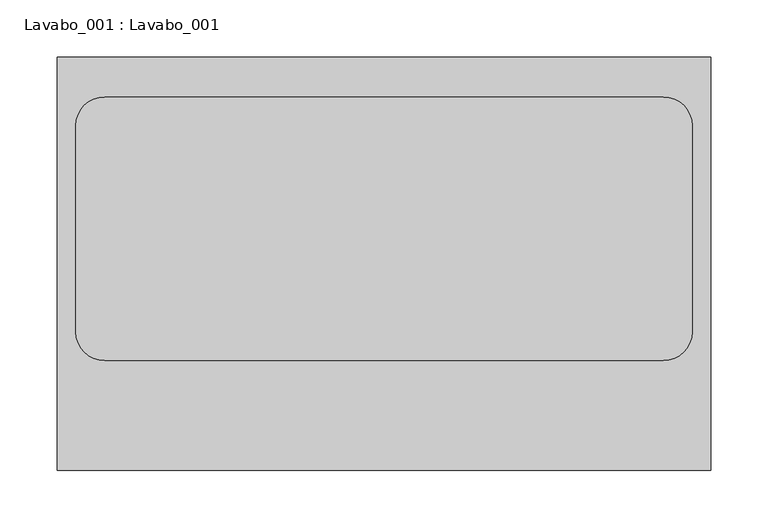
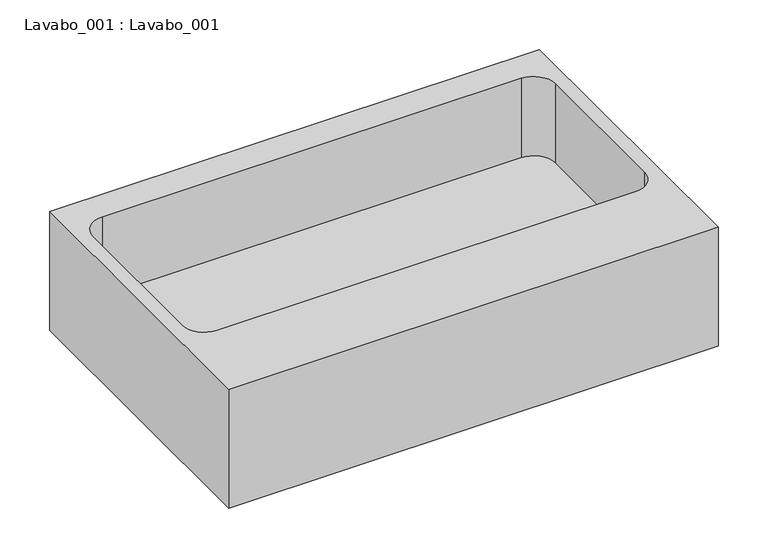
"""IFC4 building model written with IfcOpenShell, lengths in millimetres: flow terminal geometry, Lavabo_001 : Lavabo_001."""

from ifc_helpers import new_model, si_unit, frame, origin, place, context, project, spatial, polyline, circle_curve, source, transform, mapped, element, save
from ifc_brep_helpers import plane_surface, revolved_surface, advanced_brep


def lavabo_001_lavabo_001_a05f0334(model_context):
    return source(origin(), model_context, "Body", "AdvancedBrep", [
        advanced_brep(
        [(179.6616781, 185.7004481, 1386.516961), (-389.0614998, 185.7004481, 1386.516961), (-389.0614998, -174.2995519, 1386.516961), (179.6616781, -174.2995519, 1386.516961), (-347.964768, -78.5472641, 1386.516961), (-372.964768, -53.5472641, 1386.516961), (-372.964768, 126.2192236, 1386.516961), (-347.964768, 151.2192236, 1386.516961), (138.5649463, 151.2192236, 1386.516961), (163.5649463, 126.2192236, 1386.516961), (163.5649463, -53.5472641, 1386.516961), (138.5649463, -78.5472641, 1386.516961), (179.6616781, 185.7004481, 1240.5438045), (179.6616781, -174.2995519, 1240.5438045), (-389.0614998, -174.2995519, 1240.5438045), (-389.0614998, 185.7004481, 1240.5438045), (-347.964768, -78.5472641, 1289.0019675), (138.5649463, -78.5472641, 1289.0019675), (163.5649463, -53.5472641, 1289.0019675), (163.5649463, 126.2192236, 1289.0019675), (138.5649463, 151.2192236, 1289.0019675), (-347.964768, 151.2192236, 1289.0019675), (-372.964768, 126.2192236, 1289.0019675), (-372.964768, -53.5472641, 1289.0019675)],
        [
            (0, 1),
            (1, 2),
            (2, 3),
            (3, 0),
            (4, 5, circle_curve(frame((-347.964768, -53.5472641, 1386.516961), z_axis=(0.0, 0.0, -1.0), x_axis=(-1.0, 0.0, 0.0)), 25.0)),
            (5, 6),
            (6, 7, circle_curve(frame((-347.964768, 126.2192236, 1386.516961), z_axis=(0.0, 0.0, -1.0), x_axis=(-1.0, 0.0, 0.0)), 25.0)),
            (7, 8),
            (8, 9, circle_curve(frame((138.5649463, 126.2192236, 1386.516961), z_axis=(0.0, 0.0, -1.0), x_axis=(1.0, 0.0, 0.0)), 25.0)),
            (9, 10),
            (10, 11, circle_curve(frame((138.5649463, -53.5472641, 1386.516961), z_axis=(0.0, 0.0, -1.0), x_axis=(1.0, 0.0, 0.0)), 25.0)),
            (11, 4),
            (12, 13),
            (13, 14),
            (14, 15),
            (15, 12),
            (0, 12),
            (15, 1),
            (14, 2),
            (13, 3),
            (16, 17),
            (17, 18, circle_curve(frame((138.5649463, -53.5472641, 1289.0019675), z_axis=(0.0, 0.0, 1.0), x_axis=(1.0, 0.0, 0.0)), 25.0)),
            (18, 19),
            (19, 20, circle_curve(frame((138.5649463, 126.2192236, 1289.0019675), z_axis=(0.0, 0.0, 1.0), x_axis=(1.0, 0.0, 0.0)), 25.0)),
            (20, 21),
            (21, 22, circle_curve(frame((-347.964768, 126.2192236, 1289.0019675), z_axis=(0.0, 0.0, 1.0), x_axis=(-1.0, 0.0, 0.0)), 25.0)),
            (22, 23),
            (23, 16, circle_curve(frame((-347.964768, -53.5472641, 1289.0019675), z_axis=(0.0, 0.0, 1.0), x_axis=(-1.0, 0.0, 0.0)), 25.0)),
            (23, 5),
            (4, 16),
            (22, 6),
            (21, 7),
            (20, 8),
            (19, 9),
            (18, 10),
            (17, 11),
        ],
        [
            plane_surface(frame((-319.1916049, 185.7004481, 1386.516961), z_axis=(0.0, 0.0, 1.0), x_axis=(-1.0, 0.0, 0.0))),
            plane_surface(frame((-319.1916049, 185.7004481, 1240.5438045), z_axis=(0.0, 0.0, -1.0), x_axis=(1.0, 0.0, 0.0))),
            plane_surface(frame((179.6616781, 185.7004481, 1386.516961), z_axis=(0.0, 1.0, 0.0), x_axis=(0.0, 0.0, -1.0))),
            plane_surface(frame((-389.0614998, 185.7004481, 1386.516961), z_axis=(-1.0, 0.0, 0.0), x_axis=(0.0, 0.0, -1.0))),
            plane_surface(frame((-389.0614998, -174.2995519, 1386.516961), z_axis=(0.0, -1.0, 0.0), x_axis=(0.0, 0.0, -1.0))),
            plane_surface(frame((179.6616781, -174.2995519, 1386.516961), z_axis=(1.0, 0.0, 0.0), x_axis=(0.0, 0.0, -1.0))),
            plane_surface(frame((-372.964768, -53.5472641, 1289.0019675), z_axis=(0.0, 0.0, 1.0), x_axis=(0.0, 1.0, 0.0))),
            revolved_surface(polyline([(-372.964768, -53.5472641, 1289.0019675), (-372.964768, -53.5472641, 1386.516961)]), (-347.964768, -53.5472641, 1386.516961), (0.0, 0.0, -1.0)),
            plane_surface(frame((-372.964768, -53.5472641, 1289.0019675), z_axis=(1.0, 0.0, 0.0), x_axis=(0.0, 0.0, 1.0))),
            revolved_surface(polyline([(-372.964768, 126.2192236, 1289.0019675), (-372.964768, 126.2192236, 1386.516961)]), (-347.964768, 126.2192236, 1386.516961), (0.0, 0.0, -1.0)),
            plane_surface(frame((-347.964768, 151.2192236, 1289.0019675), z_axis=(0.0, -1.0, 0.0), x_axis=(0.0, 0.0, 1.0))),
            revolved_surface(polyline([(163.5649463, 126.2192236, 1289.0019675), (163.5649463, 126.2192236, 1386.516961)]), (138.5649463, 126.2192236, 1386.516961), (0.0, 0.0, -1.0)),
            plane_surface(frame((163.5649463, 126.2192236, 1289.0019675), z_axis=(-1.0, 0.0, 0.0), x_axis=(0.0, 0.0, 1.0))),
            revolved_surface(polyline([(163.5649463, -53.5472641, 1289.0019675), (163.5649463, -53.5472641, 1386.516961)]), (138.5649463, -53.5472641, 1386.516961), (0.0, 0.0, -1.0)),
            plane_surface(frame((138.5649463, -78.5472641, 1289.0019675), z_axis=(0.0, 1.0, 0.0), x_axis=(0.0, 0.0, 1.0))),
        ],
        [
            (0, [[1, 2, 3, 4], [5, 6, 7, 8, 9, 10, 11, 12]]),
            (1, [[13, 14, 15, 16]]),
            (2, [[-1, 17, -16, 18]]),
            (3, [[-2, -18, -15, 19]]),
            (4, [[-3, -19, -14, 20]]),
            (5, [[-4, -20, -13, -17]]),
            (6, [[21, 22, 23, 24, 25, 26, 27, 28]]),
            (7, [[-28, 29, -5, 30]]),
            (8, [[-27, 31, -6, -29]]),
            (9, [[-26, 32, -7, -31]]),
            (10, [[-25, 33, -8, -32]]),
            (11, [[-24, 34, -9, -33]]),
            (12, [[-23, 35, -10, -34]]),
            (13, [[-22, 36, -11, -35]]),
            (14, [[-21, -30, -12, -36]]),
        ],
    ),
    ])


if __name__ == "__main__":
    model = new_model("IFC4")
    model_context = context("Model", 3, world=origin())
    ifc_project = project(units=[si_unit("LENGTHUNIT", "METRE", prefix="MILLI")], contexts=[model_context])
    site = spatial("IfcSite", under=ifc_project)
    building = spatial("IfcBuilding", under=site)
    placement = place(None, origin())
    lavabo_001_lavabo_001_shape = lavabo_001_lavabo_001_a05f0334(model_context)
    element("IfcFlowTerminal", 1, ObjectType="Lavabo_001 : Lavabo_001", at=placement, inside=building, context=model_context, shape_type="MappedRepresentation", body=[
        mapped(lavabo_001_lavabo_001_shape, transform((0.0, 0.0, 0.0), x_axis=(1.0, 0.0, 0.0), y_axis=(0.0, 1.0, 0.0), z_axis=(0.0, 0.0, 1.0))),
    ])
    save(model, "model.ifc")
